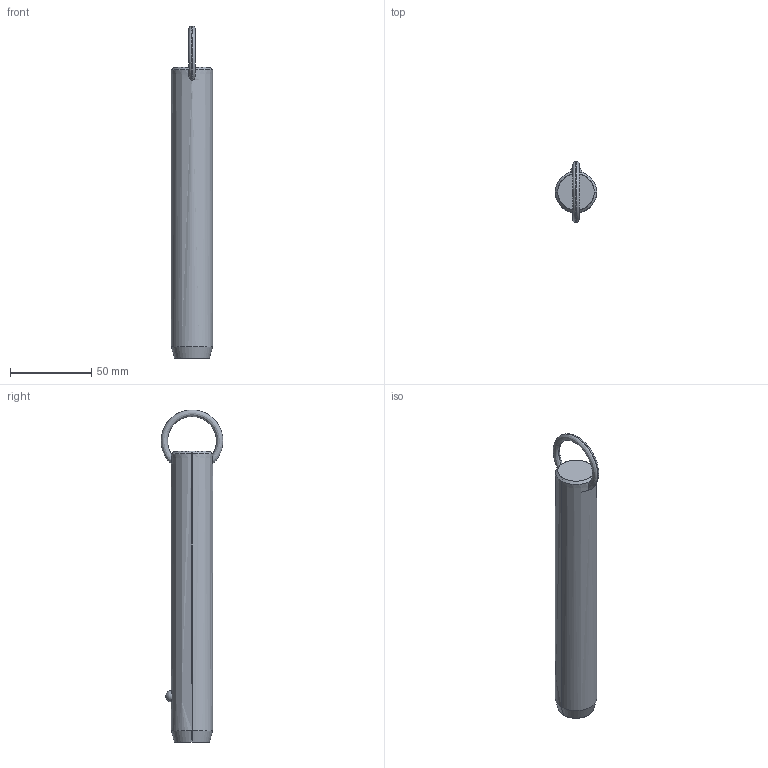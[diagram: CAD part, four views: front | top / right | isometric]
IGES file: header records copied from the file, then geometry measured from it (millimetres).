
Start section: SolidWorks IGES file using analytic representation for surfaces
Global section: file name: C:\Users\liam_\OneDrive\Documents\WORK\Work for WixRoyd\Job Files\J-00019 - Matt Davis CAD Checking\04. CAD Drawings\automotion20190605\P1250.2_v2\P1250.2_v2_20190729_IGES\P1250.100-530.igs; native system: SolidWorks 2017; preprocessor: SolidWorks 2017; author: liam_; date: 190730.174250; units: millimetre
Bounding box: 25.4 x 38.09 x 204.4 mm (x, y, z)
Surface area: 16056.9 mm2 (no closed solid volume)
Topology: 0 solids, 0 shells, 12 faces, 298 edges, 296 vertices
Faces by surface type: revolution 8, bspline 4
